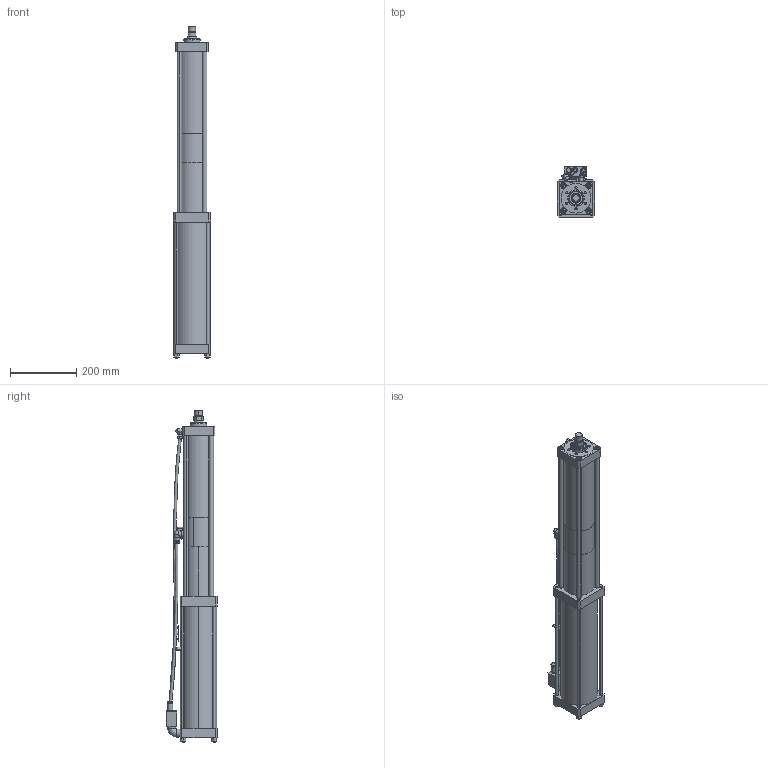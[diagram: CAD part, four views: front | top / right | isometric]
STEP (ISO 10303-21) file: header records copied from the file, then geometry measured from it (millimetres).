
FILE_DESCRIPTION (( 'STEP AP203' ), '1' );
FILE_NAME ('BS04-200-12S.step', '2025-07-31T09:39:42', ( 'Ranlm' ), ( '' ), 'SwSTEP 2.0', 'SolidWorks 2022', '' );
FILE_SCHEMA (( 'CONFIG_CONTROL_DESIGN' ));
Length unit declared in the file: millimetre
Products named in the file (1): BS04-200-12S
Bounding box: 112 x 152 x 999 mm (x, y, z)
Surface area: 590725 mm2 (no closed solid volume)
Topology: 0 solids, 51 shells, 522 faces, 1421 edges, 936 vertices
Faces by surface type: plane 226, cylinder 186, cone 81, torus 22, bspline 6, sphere 1
Entity records: 17960 total; most frequent: CARTESIAN_POINT 4468, DIRECTION 3020, ORIENTED_EDGE 2408, EDGE_CURVE 1413, AXIS2_PLACEMENT_3D 1152, VERTEX_POINT 935, LINE 716, VECTOR 716
